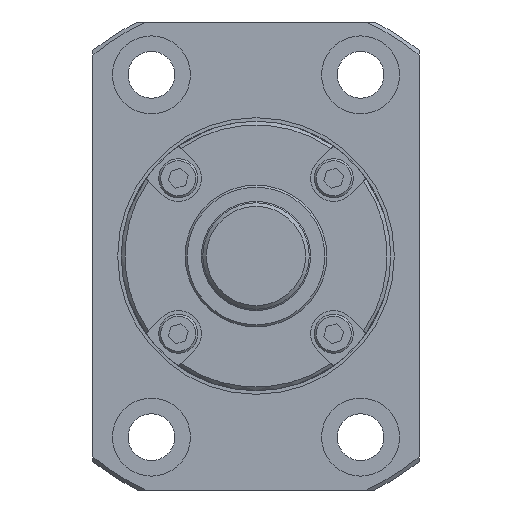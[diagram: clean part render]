
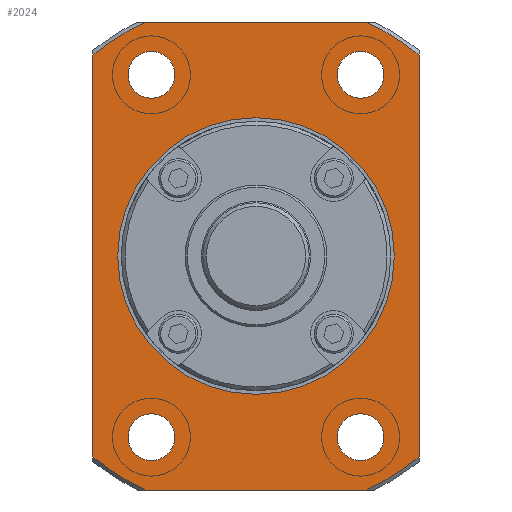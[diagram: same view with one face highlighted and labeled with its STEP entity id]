
A CAD part, left-side view. The second image highlights one B-rep face of the part: STEP entity #2024.
In plain terms, the highlighted planar face has unit normal (-1, 0, 0).
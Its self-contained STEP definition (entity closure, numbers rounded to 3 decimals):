
#184=CIRCLE('',#2252,36.5);
#185=CIRCLE('',#2254,36.5);
#186=CIRCLE('',#2256,36.5);
#187=CIRCLE('',#2258,36.5);
#188=CIRCLE('',#2260,17.55);
#189=CIRCLE('',#2261,3.3);
#190=CIRCLE('',#2262,3.3);
#191=CIRCLE('',#2263,3.3);
#192=CIRCLE('',#2264,3.3);
#445=ORIENTED_EDGE('',*,*,#912,.T.);
#446=ORIENTED_EDGE('',*,*,#913,.T.);
#447=ORIENTED_EDGE('',*,*,#914,.T.);
#448=ORIENTED_EDGE('',*,*,#915,.T.);
#449=ORIENTED_EDGE('',*,*,#916,.T.);
#450=ORIENTED_EDGE('',*,*,#901,.F.);
#451=ORIENTED_EDGE('',*,*,#917,.T.);
#452=ORIENTED_EDGE('',*,*,#903,.F.);
#453=ORIENTED_EDGE('',*,*,#918,.T.);
#454=ORIENTED_EDGE('',*,*,#907,.F.);
#455=ORIENTED_EDGE('',*,*,#919,.T.);
#456=ORIENTED_EDGE('',*,*,#909,.F.);
#457=ORIENTED_EDGE('',*,*,#920,.T.);
#901=EDGE_CURVE('',#1140,#1141,#184,.T.);
#903=EDGE_CURVE('',#1142,#1143,#185,.T.);
#907=EDGE_CURVE('',#1144,#1145,#186,.T.);
#909=EDGE_CURVE('',#1146,#1147,#187,.T.);
#912=EDGE_CURVE('',#1148,#1148,#188,.T.);
#913=EDGE_CURVE('',#1149,#1149,#189,.T.);
#914=EDGE_CURVE('',#1150,#1150,#190,.T.);
#915=EDGE_CURVE('',#1151,#1151,#191,.T.);
#916=EDGE_CURVE('',#1152,#1152,#192,.T.);
#917=EDGE_CURVE('',#1140,#1143,#1276,.T.);
#918=EDGE_CURVE('',#1142,#1145,#1277,.T.);
#919=EDGE_CURVE('',#1144,#1147,#1278,.T.);
#920=EDGE_CURVE('',#1146,#1141,#1279,.T.);
#1140=VERTEX_POINT('',#3381);
#1141=VERTEX_POINT('',#3383);
#1142=VERTEX_POINT('',#3390);
#1143=VERTEX_POINT('',#3391);
#1144=VERTEX_POINT('',#3405);
#1145=VERTEX_POINT('',#3407);
#1146=VERTEX_POINT('',#3414);
#1147=VERTEX_POINT('',#3415);
#1148=VERTEX_POINT('',#3426);
#1149=VERTEX_POINT('',#3428);
#1150=VERTEX_POINT('',#3430);
#1151=VERTEX_POINT('',#3432);
#1152=VERTEX_POINT('',#3434);
#1276=LINE('',#3435,#1408);
#1277=LINE('',#3436,#1409);
#1278=LINE('',#3437,#1410);
#1279=LINE('',#3438,#1411);
#1408=VECTOR('',#2710,1000.);
#1409=VECTOR('',#2711,1000.);
#1410=VECTOR('',#2712,1000.);
#1411=VECTOR('',#2713,1000.);
#1562=EDGE_LOOP('',(#445));
#1563=EDGE_LOOP('',(#446));
#1564=EDGE_LOOP('',(#447));
#1565=EDGE_LOOP('',(#448));
#1566=EDGE_LOOP('',(#449));
#1567=EDGE_LOOP('',(#450,#451,#452,#453,#454,#455,#456,#457));
#1771=FACE_BOUND('',#1562,.T.);
#1772=FACE_BOUND('',#1563,.T.);
#1773=FACE_BOUND('',#1564,.T.);
#1774=FACE_BOUND('',#1565,.T.);
#1775=FACE_BOUND('',#1566,.T.);
#1776=FACE_BOUND('',#1567,.T.);
#1917=PLANE('',#2259);
#2024=ADVANCED_FACE('',(#1771,#1772,#1773,#1774,#1775,#1776),#1917,.T.);
#2252=AXIS2_PLACEMENT_3D('',#3382,#2684,#2685);
#2254=AXIS2_PLACEMENT_3D('',#3389,#2688,#2689);
#2256=AXIS2_PLACEMENT_3D('',#3406,#2692,#2693);
#2258=AXIS2_PLACEMENT_3D('',#3413,#2696,#2697);
#2259=AXIS2_PLACEMENT_3D('',#3424,#2698,#2699);
#2260=AXIS2_PLACEMENT_3D('',#3425,#2700,#2701);
#2261=AXIS2_PLACEMENT_3D('',#3427,#2702,#2703);
#2262=AXIS2_PLACEMENT_3D('',#3429,#2704,#2705);
#2263=AXIS2_PLACEMENT_3D('',#3431,#2706,#2707);
#2264=AXIS2_PLACEMENT_3D('',#3433,#2708,#2709);
#2684=DIRECTION('',(1.,0.,0.));
#2685=DIRECTION('',(0.,0.,-1.));
#2688=DIRECTION('',(1.,0.,0.));
#2689=DIRECTION('',(0.,0.,-1.));
#2692=DIRECTION('',(1.,0.,0.));
#2693=DIRECTION('',(0.,0.,-1.));
#2696=DIRECTION('',(1.,0.,0.));
#2697=DIRECTION('',(0.,0.,-1.));
#2698=DIRECTION('',(-1.,0.,0.));
#2699=DIRECTION('',(0.,0.,1.));
#2700=DIRECTION('',(1.,0.,0.));
#2701=DIRECTION('',(0.,0.,-1.));
#2702=DIRECTION('',(1.,0.,0.));
#2703=DIRECTION('',(0.,0.,-1.));
#2704=DIRECTION('',(1.,0.,0.));
#2705=DIRECTION('',(0.,0.,-1.));
#2706=DIRECTION('',(1.,0.,0.));
#2707=DIRECTION('',(0.,0.,-1.));
#2708=DIRECTION('',(1.,0.,0.));
#2709=DIRECTION('',(0.,0.,-1.));
#2710=DIRECTION('',(0.,1.,0.));
#2711=DIRECTION('',(0.,0.,-1.));
#2712=DIRECTION('',(0.,-1.,0.));
#2713=DIRECTION('',(0.,0.,1.));
#3381=CARTESIAN_POINT('',(31.,-15.596,33.));
#3382=CARTESIAN_POINT('',(31.,0.,0.));
#3383=CARTESIAN_POINT('',(31.,-23.,28.342));
#3389=CARTESIAN_POINT('',(31.,0.,0.));
#3390=CARTESIAN_POINT('',(31.,23.,28.342));
#3391=CARTESIAN_POINT('',(31.,15.596,33.));
#3405=CARTESIAN_POINT('',(31.,15.596,-33.));
#3406=CARTESIAN_POINT('',(31.,0.,0.));
#3407=CARTESIAN_POINT('',(31.,23.,-28.342));
#3413=CARTESIAN_POINT('',(31.,0.,0.));
#3414=CARTESIAN_POINT('',(31.,-23.,-28.342));
#3415=CARTESIAN_POINT('',(31.,-15.596,-33.));
#3424=CARTESIAN_POINT('',(31.,36.5,0.));
#3425=CARTESIAN_POINT('',(31.,0.,0.));
#3426=CARTESIAN_POINT('',(31.,0.,-17.55));
#3427=CARTESIAN_POINT('',(31.,14.75,25.548));
#3428=CARTESIAN_POINT('',(31.,14.75,22.248));
#3429=CARTESIAN_POINT('',(31.,-14.75,25.548));
#3430=CARTESIAN_POINT('',(31.,-14.75,22.248));
#3431=CARTESIAN_POINT('',(31.,-14.75,-25.548));
#3432=CARTESIAN_POINT('',(31.,-14.75,-28.848));
#3433=CARTESIAN_POINT('',(31.,14.75,-25.548));
#3434=CARTESIAN_POINT('',(31.,14.75,-28.848));
#3435=CARTESIAN_POINT('',(31.,36.5,33.));
#3436=CARTESIAN_POINT('',(31.,23.,0.));
#3437=CARTESIAN_POINT('',(31.,36.5,-33.));
#3438=CARTESIAN_POINT('',(31.,-23.,0.));
